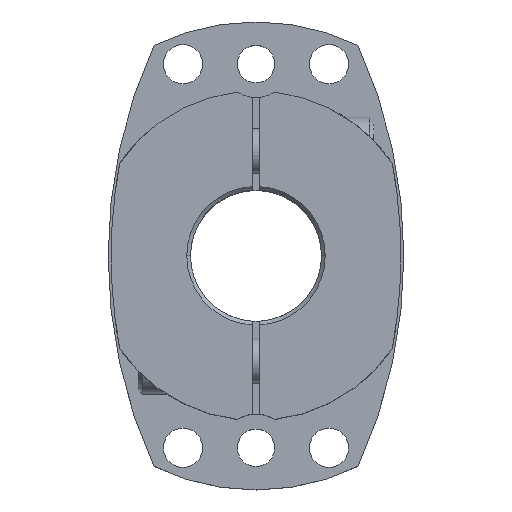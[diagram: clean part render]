
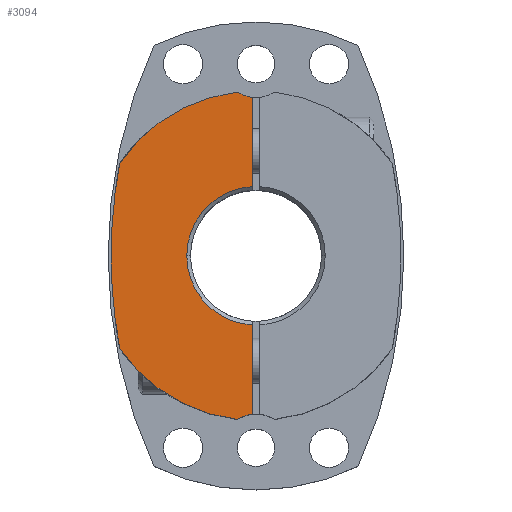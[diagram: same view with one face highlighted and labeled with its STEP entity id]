
A CAD part, top view. The second image highlights one B-rep face of the part: STEP entity #3094.
In plain terms, the highlighted planar face has unit normal (0, 0, 1).
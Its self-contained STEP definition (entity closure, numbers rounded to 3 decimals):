
#412=CARTESIAN_POINT('',(-18.5,0.,36.0));
#413=VERTEX_POINT('',#412);
#421=CARTESIAN_POINT('',(-1.,18.473,36.0));
#422=VERTEX_POINT('',#421);
#436=CARTESIAN_POINT('',(0.,0.,36.0));
#437=DIRECTION('',(0.0,0.0,1.0));
#438=DIRECTION('',(-1.0,0.0,0.0));
#439=AXIS2_PLACEMENT_3D('',#436,#437,#438);
#440=CIRCLE('',#439,18.5);
#441=EDGE_CURVE('',#422,#413,#440,.T.);
#451=CARTESIAN_POINT('',(-38.7,0.,36.0));
#452=VERTEX_POINT('',#451);
#461=CARTESIAN_POINT('',(-36.405,24.712,36.0));
#462=VERTEX_POINT('',#461);
#463=CARTESIAN_POINT('',(95.5,0.,36.0));
#464=DIRECTION('',(0.0,0.0,-1.0));
#465=DIRECTION('',(1.0,0.0,0.0));
#466=AXIS2_PLACEMENT_3D('',#463,#464,#465);
#467=CIRCLE('',#466,134.2);
#468=EDGE_CURVE('',#452,#462,#467,.T.);
#2005=CARTESIAN_POINT('',(-4.933,-43.723,36.0));
#2006=VERTEX_POINT('',#2005);
#2013=CARTESIAN_POINT('',(-36.405,-24.712,36.0));
#2014=VERTEX_POINT('',#2013);
#2015=CARTESIAN_POINT('',(0.,0.,36.0));
#2016=DIRECTION('',(0.0,0.0,-1.0));
#2017=DIRECTION('',(1.0,0.0,0.0));
#2018=AXIS2_PLACEMENT_3D('',#2015,#2016,#2017);
#2019=CIRCLE('',#2018,44.);
#2020=EDGE_CURVE('',#2006,#2014,#2019,.T.);
#2654=CARTESIAN_POINT('',(95.5,0.,36.0));
#2655=DIRECTION('',(0.0,0.0,-1.0));
#2656=DIRECTION('',(1.0,0.0,0.0));
#2657=AXIS2_PLACEMENT_3D('',#2654,#2655,#2656);
#2658=CIRCLE('',#2657,134.2);
#2659=EDGE_CURVE('',#2014,#452,#2658,.T.);
#2704=CARTESIAN_POINT('',(-1.,42.306,36.0));
#2705=VERTEX_POINT('',#2704);
#2721=CARTESIAN_POINT('',(-4.933,43.723,36.0));
#2722=VERTEX_POINT('',#2721);
#2729=CARTESIAN_POINT('',(0.,51.25,36.0));
#2730=DIRECTION('',(0.0,0.0,-1.0));
#2731=DIRECTION('',(1.0,0.0,0.0));
#2732=AXIS2_PLACEMENT_3D('',#2729,#2730,#2731);
#2733=CIRCLE('',#2732,9.0);
#2734=EDGE_CURVE('',#2705,#2722,#2733,.T.);
#2796=CARTESIAN_POINT('',(-1.,-42.306,36.0));
#2797=VERTEX_POINT('',#2796);
#2804=CARTESIAN_POINT('',(0.,-51.25,36.0));
#2805=DIRECTION('',(0.0,0.0,-1.0));
#2806=DIRECTION('',(1.0,0.0,0.0));
#2807=AXIS2_PLACEMENT_3D('',#2804,#2805,#2806);
#2808=CIRCLE('',#2807,9.0);
#2809=EDGE_CURVE('',#2006,#2797,#2808,.T.);
#2928=CARTESIAN_POINT('',(-1.,18.473,36.0));
#2929=DIRECTION('',(0.0,1.0,0.0));
#2930=VECTOR('',#2929,23.833);
#2931=LINE('',#2928,#2930);
#2932=EDGE_CURVE('',#422,#2705,#2931,.T.);
#3058=CARTESIAN_POINT('',(0.,0.,36.0));
#3059=DIRECTION('',(0.0,0.0,1.0));
#3060=DIRECTION('',(1.0,0.0,0.0));
#3061=AXIS2_PLACEMENT_3D('',#3058,#3059,#3060);
#3062=PLANE('',#3061);
#3063=ORIENTED_EDGE('',*,*,#2734,.T.);
#3064=CARTESIAN_POINT('',(0.,0.,36.0));
#3065=DIRECTION('',(0.0,0.0,-1.0));
#3066=DIRECTION('',(1.0,0.0,0.0));
#3067=AXIS2_PLACEMENT_3D('',#3064,#3065,#3066);
#3068=CIRCLE('',#3067,44.);
#3069=EDGE_CURVE('',#462,#2722,#3068,.T.);
#3070=ORIENTED_EDGE('',*,*,#3069,.F.);
#3071=ORIENTED_EDGE('',*,*,#468,.F.);
#3072=ORIENTED_EDGE('',*,*,#2659,.F.);
#3073=ORIENTED_EDGE('',*,*,#2020,.F.);
#3074=ORIENTED_EDGE('',*,*,#2809,.T.);
#3075=CARTESIAN_POINT('',(-1.,-18.473,36.0));
#3076=VERTEX_POINT('',#3075);
#3077=CARTESIAN_POINT('',(-1.,-42.306,36.0));
#3078=DIRECTION('',(0.0,1.0,0.0));
#3079=VECTOR('',#3078,23.833);
#3080=LINE('',#3077,#3079);
#3081=EDGE_CURVE('',#2797,#3076,#3080,.T.);
#3082=ORIENTED_EDGE('',*,*,#3081,.T.);
#3083=CARTESIAN_POINT('',(0.,0.,36.0));
#3084=DIRECTION('',(0.0,0.0,1.0));
#3085=DIRECTION('',(-1.0,0.0,0.0));
#3086=AXIS2_PLACEMENT_3D('',#3083,#3084,#3085);
#3087=CIRCLE('',#3086,18.5);
#3088=EDGE_CURVE('',#413,#3076,#3087,.T.);
#3089=ORIENTED_EDGE('',*,*,#3088,.F.);
#3090=ORIENTED_EDGE('',*,*,#441,.F.);
#3091=ORIENTED_EDGE('',*,*,#2932,.T.);
#3092=EDGE_LOOP('',(#3063,#3070,#3071,#3072,#3073,#3074,#3082,#3089,#3090,#3091));
#3093=FACE_OUTER_BOUND('',#3092,.T.);
#3094=ADVANCED_FACE('',(#3093),#3062,.T.);
